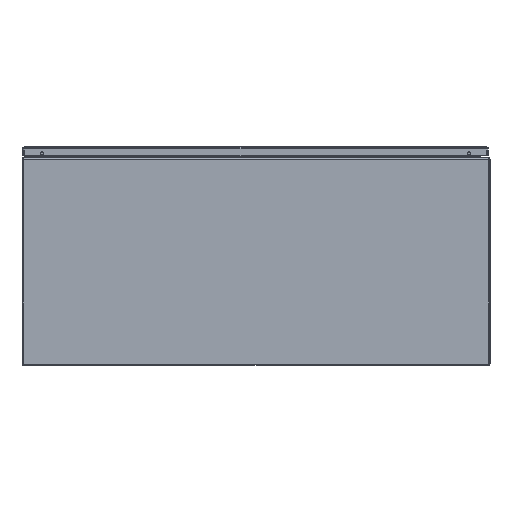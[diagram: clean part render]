
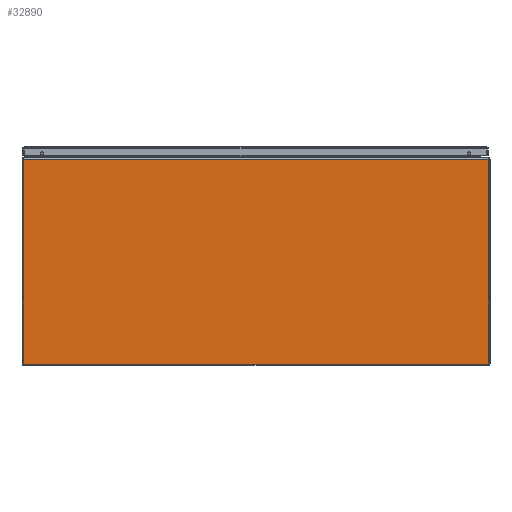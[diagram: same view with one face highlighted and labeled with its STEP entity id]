
A CAD part, front view. The second image highlights one B-rep face of the part: STEP entity #32890.
In plain terms, the highlighted planar face has unit normal (0, -1, 0).
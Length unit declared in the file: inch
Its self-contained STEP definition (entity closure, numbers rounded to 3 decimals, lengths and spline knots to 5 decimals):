
#7579 = DIRECTION ( 'NONE',  ( 0., 0., -1. ) ) ;
#7580 = DIRECTION ( 'NONE',  ( 0., -1., 0. ) ) ;
#7584 = PLANE ( 'NONE',  #35651 ) ;
#7586 = CARTESIAN_POINT ( 'NONE',  ( 18., 0., 0.08 ) ) ;
#10557 = ORIENTED_EDGE ( 'NONE', *, *, #34600, .F. ) ;
#10602 = ORIENTED_EDGE ( 'NONE', *, *, #34427, .F. ) ;
#10717 = ORIENTED_EDGE ( 'NONE', *, *, #34489, .T. ) ;
#10958 = ORIENTED_EDGE ( 'NONE', *, *, #34454, .T. ) ;
#13188 = FACE_OUTER_BOUND ( 'NONE', #19784, .T. ) ;
#13672 = CARTESIAN_POINT ( 'NONE',  ( -17.921, 0., 15.838 ) ) ;
#13816 = CARTESIAN_POINT ( 'NONE',  ( -17.921, 0., 0.08 ) ) ;
#14193 = CARTESIAN_POINT ( 'NONE',  ( 17.921, 0., 0.08 ) ) ;
#14453 = CARTESIAN_POINT ( 'NONE',  ( 17.921, 0., 15.838 ) ) ;
#19784 = EDGE_LOOP ( 'NONE', ( #10557, #10602, #10958, #10717 ) ) ;
#19971 = VECTOR ( 'NONE', #29577, 39.37008 ) ;
#19981 = LINE ( 'NONE', #29571, #19971 ) ;
#20056 = VECTOR ( 'NONE', #29669, 39.37008 ) ;
#20096 = LINE ( 'NONE', #29662, #20056 ) ;
#26521 = VERTEX_POINT ( 'NONE', #14453 ) ;
#26745 = VERTEX_POINT ( 'NONE', #14193 ) ;
#27064 = VERTEX_POINT ( 'NONE', #13816 ) ;
#27189 = VERTEX_POINT ( 'NONE', #13672 ) ;
#29571 = CARTESIAN_POINT ( 'NONE',  ( 17.921, 0., 0.08 ) ) ;
#29577 = DIRECTION ( 'NONE',  ( 0., 0., -1. ) ) ;
#29662 = CARTESIAN_POINT ( 'NONE',  ( 18., 0., 15.838 ) ) ;
#29669 = DIRECTION ( 'NONE',  ( -1., 0., 0. ) ) ;
#29786 = CARTESIAN_POINT ( 'NONE',  ( -17.921, 0., 16.569 ) ) ;
#29793 = DIRECTION ( 'NONE',  ( 0., 0., -1. ) ) ;
#30607 = CARTESIAN_POINT ( 'NONE',  ( 18., 0., 0.08 ) ) ;
#30608 = DIRECTION ( 'NONE',  ( -1., 0., 0. ) ) ;
#30770 = VECTOR ( 'NONE', #29793, 39.37008 ) ;
#30781 = LINE ( 'NONE', #29786, #30770 ) ;
#30927 = LINE ( 'NONE', #30607, #30930 ) ;
#30930 = VECTOR ( 'NONE', #30608, 39.37008 ) ;
#32890 = ADVANCED_FACE ( 'NONE', ( #13188 ), #7584, .T. ) ;
#34427 = EDGE_CURVE ( 'NONE', #26521, #26745, #19981, .T. ) ;
#34454 = EDGE_CURVE ( 'NONE', #26521, #27189, #20096, .T. ) ;
#34489 = EDGE_CURVE ( 'NONE', #27189, #27064, #30781, .T. ) ;
#34600 = EDGE_CURVE ( 'NONE', #26745, #27064, #30927, .T. ) ;
#35651 = AXIS2_PLACEMENT_3D ( 'NONE', #7586, #7580, #7579 ) ;
